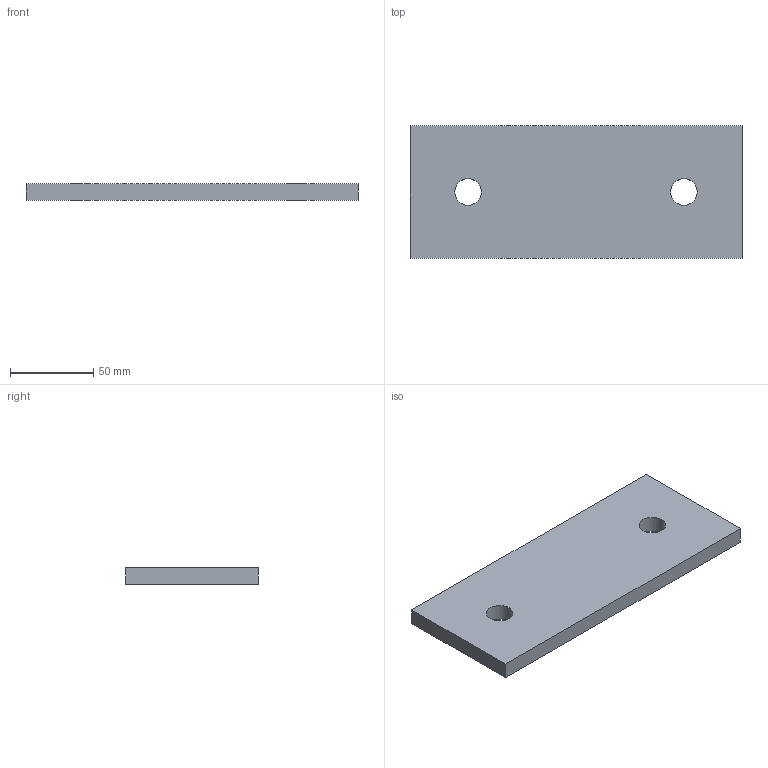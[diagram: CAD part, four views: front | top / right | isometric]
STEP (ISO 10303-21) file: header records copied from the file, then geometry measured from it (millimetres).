
FILE_DESCRIPTION(/* description */ (''),/* implementation_level */ '2;1');
FILE_NAME(/* name */ 'Pos108-Strip 80x10-S235JRG2-2st',/* time_stamp */ '2024-08-06T11:42:42+02:00',/* author */ (''),/* organization */ (''),/* preprocessor_version */ 'ST-DEVELOPER v16.5',/* originating_system */ 'HiCAD 2024 2901.2 Build 361',/* authorisation */ '');
FILE_SCHEMA (('AUTOMOTIVE_DESIGN { 1 0 10303 214 1 1 1 1 }'));
Length unit declared in the file: millimetre
Products named in the file (1): Pos108-Strip 80x10-S235JRG2-2st
Bounding box: 200 x 80 x 10 mm (x, y, z)
Volume: 155978.8 mm3; surface area: 37801.1 mm2
Topology: 1 solids, 1 shells, 8 faces, 20 edges, 14 vertices
Faces by surface type: plane 6, cylinder 2
Full cylindrical faces by diameter (mm): 16 x2
Entity records: 402 total; most frequent: DIRECTION 36, CARTESIAN_POINT 36, PRESENTATION_STYLE_ASSIGNMENT 33, COLOUR_RGB 33, DRAUGHTING_PRE_DEFINED_CURVE_FONT 32, CURVE_STYLE 32, OVER_RIDING_STYLED_ITEM 32, ORIENTED_EDGE 32
